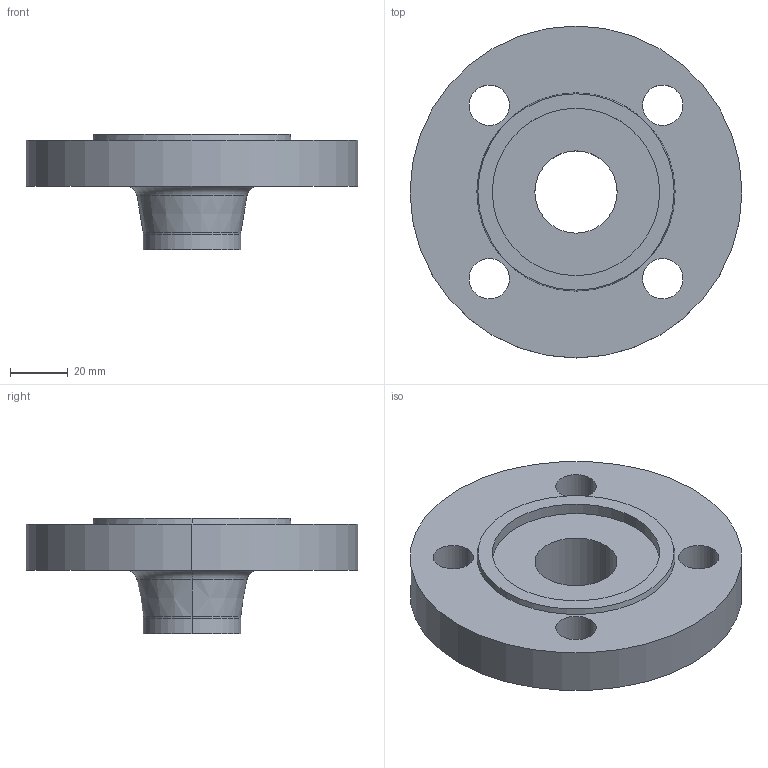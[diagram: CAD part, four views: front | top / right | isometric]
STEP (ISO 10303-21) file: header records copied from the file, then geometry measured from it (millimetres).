
FILE_DESCRIPTION (( 'STEP AP214' ), '1' );
FILE_NAME ('PN40 DN25 Type 11 - Type F Face.STEP', '2018-12-29T20:31:01', ( '' ), ( '' ), 'SwSTEP 2.0', 'SolidWorks 2019', '' );
FILE_SCHEMA (( 'AUTOMOTIVE_DESIGN' ));
Length unit declared in the file: millimetre
Products named in the file (1): PN40 DN25 Type 11 - Type F Face
Bounding box: 115 x 115 x 40 mm (x, y, z)
Volume: 152585.7 mm3; surface area: 33219 mm2
Topology: 1 solids, 1 shells, 29 faces, 66 edges, 42 vertices
Faces by surface type: cylinder 16, plane 5, torus 4, cone 4
Entity records: 892 total; most frequent: DIRECTION 172, CARTESIAN_POINT 138, ORIENTED_EDGE 132, AXIS2_PLACEMENT_3D 76, EDGE_CURVE 66, CIRCLE 46, EDGE_LOOP 42, VERTEX_POINT 42
